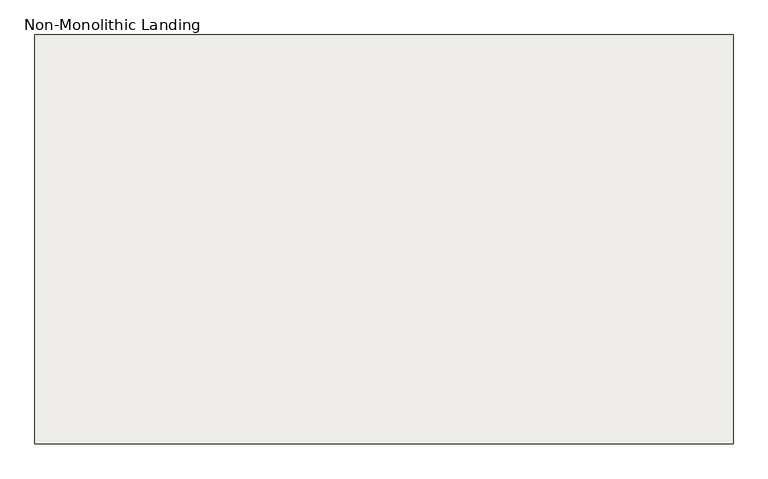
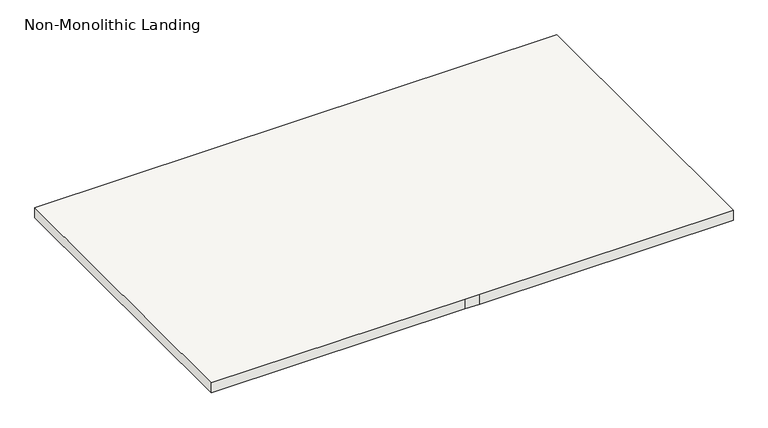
"""IFC4 building model written with IfcOpenShell, lengths in millimetres: slab geometry, Non-Monolithic Landing."""

from ifc_helpers import new_model, si_unit, frame, origin, place, context, project, spatial, polyline, outline, extrude, source, transform, mapped, element, save


def non_monolithic_landing_693965b0(model_context):
    return source(origin(), model_context, "Body", "SweptSolid", [
        extrude(outline(polyline([(1227.2607589, 12441.5722364), (1157.2607589, 12441.5722364), (-62.7392411, 12441.5722364), (-62.7392411, 13911.9570443), (2447.2607589, 13911.9570443), (2447.2607589, 12441.5722364), (1227.2607589, 12441.5722364)])), frame((0.0, 0.0, 6097.0588235), z_axis=(0.0, 0.0, 1.0), x_axis=(1.0, 0.0, 0.0)), (0.0, 0.0, 1.0), 50.0),
    ])


if __name__ == "__main__":
    model = new_model("IFC4")
    model_context = context("Model", 3, world=origin())
    ifc_project = project(units=[si_unit("LENGTHUNIT", "METRE", prefix="MILLI")], contexts=[model_context])
    site = spatial("IfcSite", under=ifc_project)
    building = spatial("IfcBuilding", under=site)
    placement = place(None, origin())
    non_monolithic_landing_shape = non_monolithic_landing_693965b0(model_context)
    element("IfcSlab", 1, ObjectType="Non-Monolithic Landing", at=placement, inside=building, context=model_context, shape_type="MappedRepresentation", body=[
        mapped(non_monolithic_landing_shape, transform((0.0, 0.0, 0.0), x_axis=(1.0, 0.0, 0.0), y_axis=(0.0, 1.0, 0.0), z_axis=(0.0, 0.0, 1.0))),
    ])
    save(model, "model.ifc")
